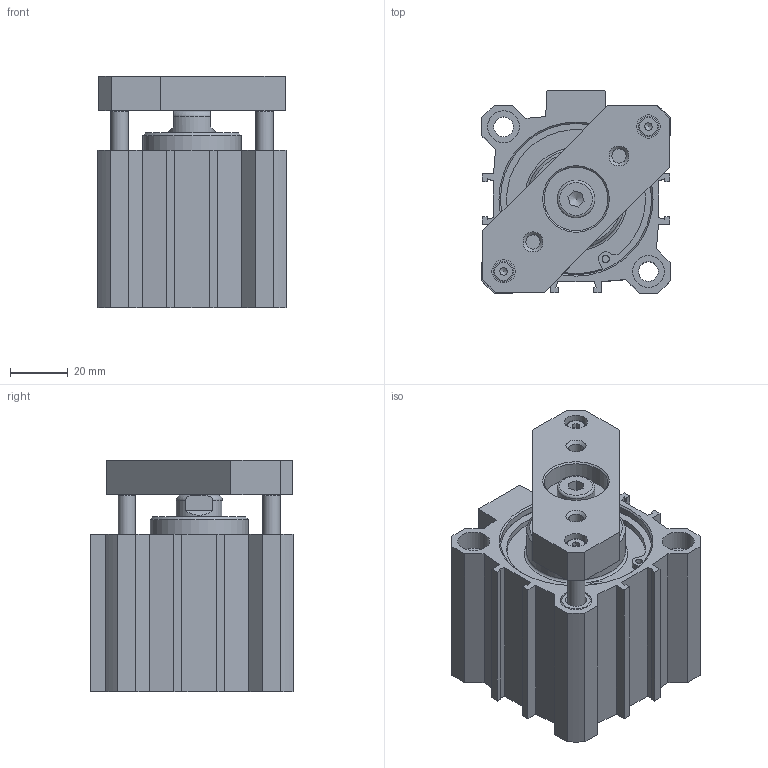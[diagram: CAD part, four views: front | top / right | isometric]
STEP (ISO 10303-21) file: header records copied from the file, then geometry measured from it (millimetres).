
FILE_DESCRIPTION(/* description */ ('Unknown'),/* implementation_level */ '2;1');
FILE_NAME(/* name */ 'FINT 50_15',/* time_stamp */ '2026-05-12T10:55:42+02:00',/* author */ ('Unknown'),/* organization */ ('Unknown'),/* preprocessor_version */ 'ST-DEVELOPER v18.102',/* originating_system */ 'Solid Edge',/* authorisation */ 'Unknown');
FILE_SCHEMA (('AUTOMOTIVE_DESIGN {1 0 10303 214 3 1 1}'));
Length unit declared in the file: millimetre
Products named in the file (7): FINT 50_15; Führungsstange; Profilrohr; Platte; Kolbenstange; Kit_1; Kit_2
Assembly tree (7 placements, depth 2):
  FINT 50_15
    Führungsstange  x2
    Profilrohr
    Platte
    Kolbenstange
    Kit_1
    Kit_2
Bounding box: 65 x 70 x 80 mm (x, y, z)
Volume: 187380.1 mm3; surface area: 76111.3 mm2
Topology: 9 solids, 10 shells, 305 faces, 703 edges, 449 vertices
Faces by surface type: plane 153, cylinder 79, cone 58, torus 15
Full cylindrical faces by diameter (mm): 2.5 x4, 2.75 x2, 3.242 x2, 4 x2, 4.5 x2, 4.917 x2, 6 x4, 6.65 x1, 6.8 x4, 7 x2, 8 x2, 8.25 x1, 8.566 x4, 10.9 x2, 11 x8, 13 x1, 16 x2, 16.54 x1, 17.7 x1, 18 x1, 20.32 x1, 20.5 x1, 22 x1, 34 x1, 37 x1, 50 x2, 51.8 x4, 52.2 x2, 55.2 x2
Entity records: 9609 total; most frequent: CARTESIAN_POINT 1418, DIRECTION 1326, ORIENTED_EDGE 1054, EDGE_CURVE 527, AXIS2_PLACEMENT_3D 522, FACE_BOUND 487, EDGE_LOOP 482, VERTEX_POINT 412
